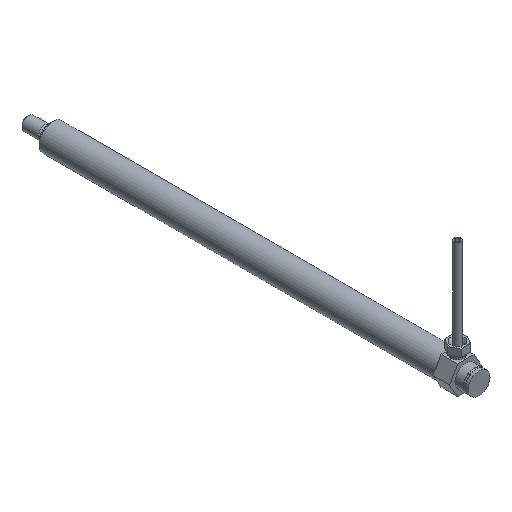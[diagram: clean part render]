
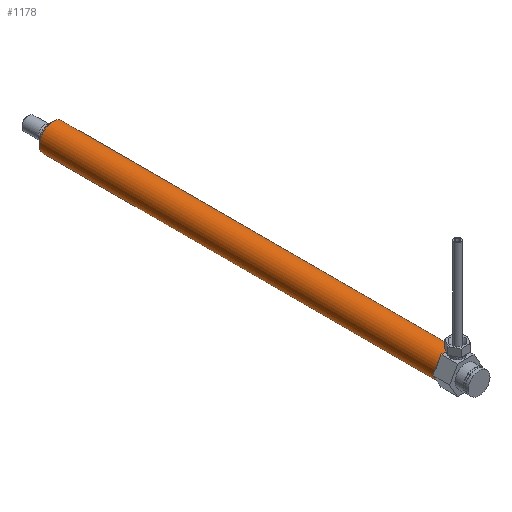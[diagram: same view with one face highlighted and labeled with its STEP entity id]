
A CAD part, isometric view. The second image highlights one B-rep face of the part: STEP entity #1178.
In plain terms, the highlighted cylindrical face has radius 8 mm (diameter 16 mm), a full revolution.
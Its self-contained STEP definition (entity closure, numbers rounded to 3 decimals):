
#183=CYLINDRICAL_SURFACE('',#1894,8.);
#219=ORIENTED_EDGE('',*,*,#470,.F.);
#220=ORIENTED_EDGE('',*,*,#474,.T.);
#470=EDGE_CURVE('',#599,#599,#712,.T.);
#474=EDGE_CURVE('',#603,#603,#716,.T.);
#599=VERTEX_POINT('',#2479);
#603=VERTEX_POINT('',#2490);
#712=CIRCLE('',#1886,8.);
#716=CIRCLE('',#1893,8.);
#798=EDGE_LOOP('',(#219));
#799=EDGE_LOOP('',(#220));
#970=FACE_BOUND('',#798,.T.);
#971=FACE_BOUND('',#799,.T.);
#1178=ADVANCED_FACE('',(#970,#971),#183,.T.);
#1886=AXIS2_PLACEMENT_3D('',#2478,#2074,#2075);
#1893=AXIS2_PLACEMENT_3D('',#2489,#2088,#2089);
#1894=AXIS2_PLACEMENT_3D('',#2491,#2090,#2091);
#2074=DIRECTION('',(-1.,0.,0.));
#2075=DIRECTION('',(0.,0.,1.));
#2088=DIRECTION('',(-1.,0.,0.));
#2089=DIRECTION('',(0.,0.,1.));
#2090=DIRECTION('',(-1.,0.,0.));
#2091=DIRECTION('',(0.,0.,1.));
#2478=CARTESIAN_POINT('',(0.,0.,0.));
#2479=CARTESIAN_POINT('',(0.,0.,8.));
#2489=CARTESIAN_POINT('',(238.,0.,0.));
#2490=CARTESIAN_POINT('',(238.,0.,8.));
#2491=CARTESIAN_POINT('',(-60.,0.,0.));
